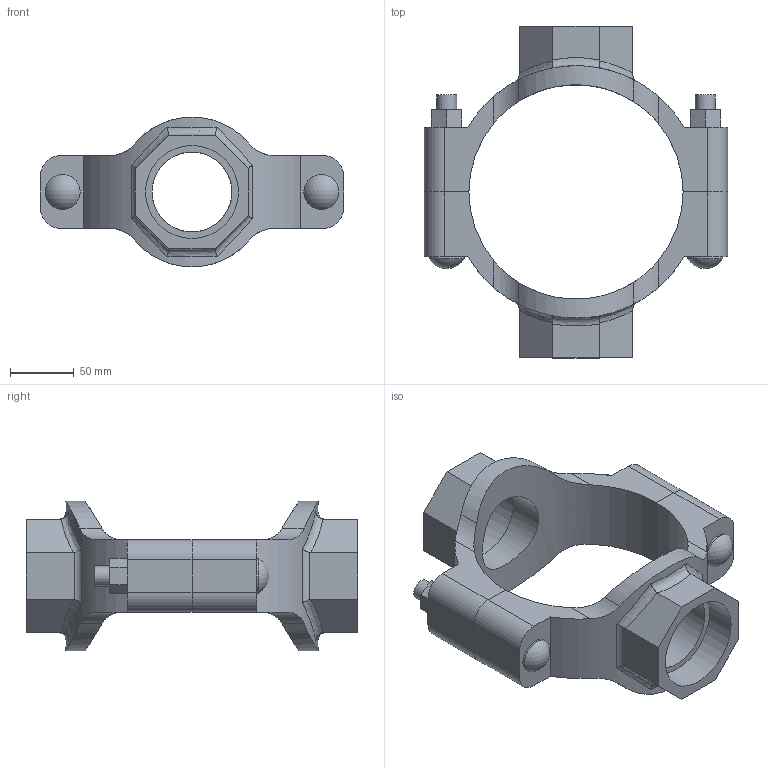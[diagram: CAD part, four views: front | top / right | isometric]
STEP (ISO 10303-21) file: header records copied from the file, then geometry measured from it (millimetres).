
FILE_DESCRIPTION(/* description */ ('VIC MECH-T BRANCH OUTLET CROSS STYLE 920N (THD)','CAx-IF Rec.Pracs.---Representation and Presentation of Product Manufacturing Information (PMI)---4.0---2014-10-13'),/* implementation_level */ '2;1');
FILE_NAME(/* name */ 'C:\Users\Vjadhav\AppData\Roaming\Autodesk\ApplicationPlugins\Back Up\Victaulic_IPS_Mechanical-Cross Outlet_Style 920N (FPT)\Victaulic_IPS_Mechanical-Cross Outlet_06.0x02.5x02.5 (150x65x65).stp',/* time_stamp */ '2020-08-06T18:59:39+05:00',/* author */ ('Vjadhav'),/* organization */ ('Victaulic'),/* preprocessor_version */ 'ST-DEVELOPER v17.2',/* originating_system */ 'Autodesk Inventor 2019',/* authorisation */ '');
FILE_SCHEMA (('AP242_MANAGED_MODEL_BASED_3D_ENGINEERING_MIM_LF { 1 0 10303 442 1 1 4 }'));
Length unit declared in the file: inch
Products named in the file (3): 920NT-06.0x02.5x02.5; 920T-06.0x02.5; 920T-06.0x02.5_1
Assembly tree (2 placements, depth 2):
  920NT-06.0x02.5x02.5
    920T-06.0x02.5
    920T-06.0x02.5_1
Bounding box: 238.25 x 260.6 x 117.6 mm (x, y, z)
Volume: 995136.7 mm3; surface area: 180954.2 mm2
Topology: 2 solids, 2 shells, 128 faces, 338 edges, 228 vertices
Faces by surface type: plane 68, cylinder 46, bspline 8, torus 4, sphere 2
Full cylindrical faces by diameter (mm): 15.875 x4, 27.496 x2, 62.738 x2, 73.025 x2
Entity records: 4985 total; most frequent: CARTESIAN_POINT 1580, ORIENTED_EDGE 676, DIRECTION 628, EDGE_CURVE 338, VERTEX_POINT 228, AXIS2_PLACEMENT_3D 223, LINE 182, VECTOR 182
